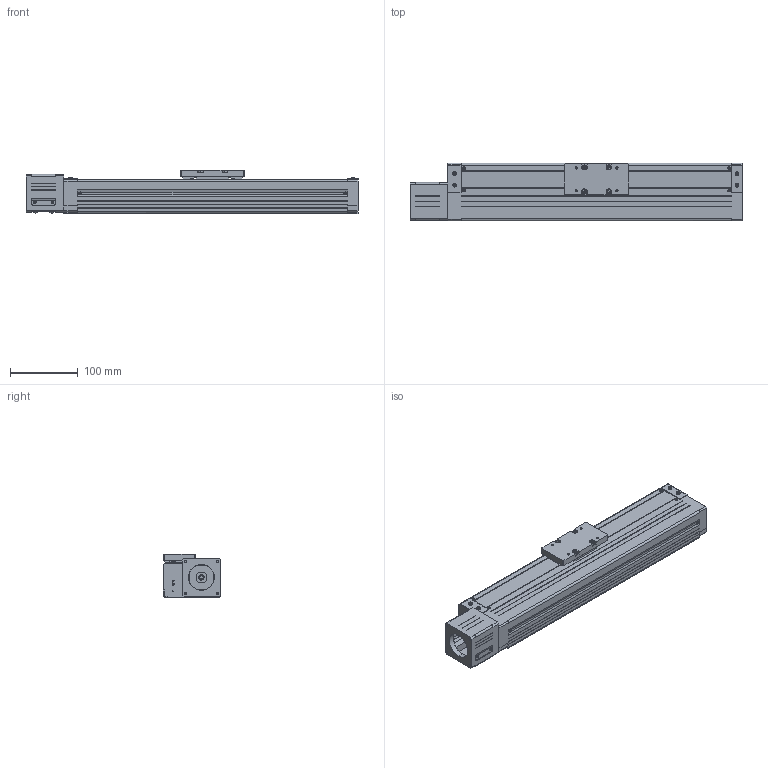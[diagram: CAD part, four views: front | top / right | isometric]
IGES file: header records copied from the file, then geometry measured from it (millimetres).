
Global section: file name: No Iges File Name specified; native system: AutoDesk Inventor R10; preprocessor: AutoDesk Inventor Iges Exporter R10; author: No Author specified; organization: No Organization specified; date: 20110701.172142; units: millimetre
Bounding box: 491 x 85 x 65 mm (x, y, z)
Surface area: 314821 mm2 (no closed solid volume)
Topology: 0 solids, 0 shells, 946 faces, 5842 edges, 5822 vertices
Faces by surface type: bspline 946
